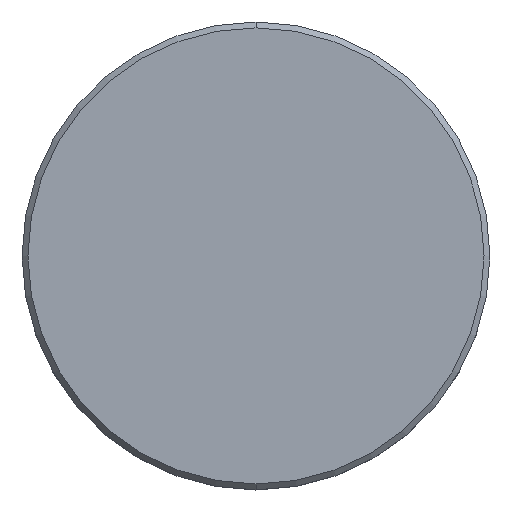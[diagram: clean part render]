
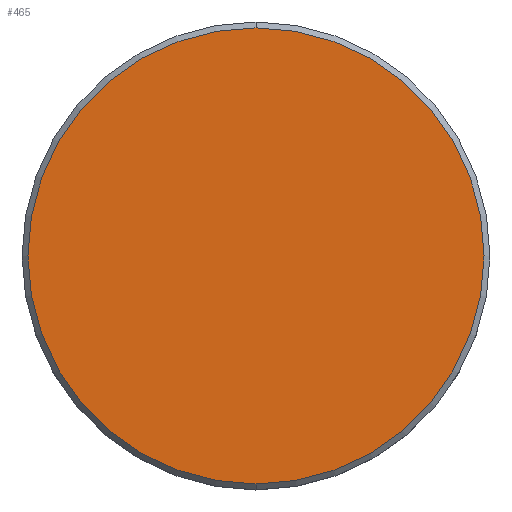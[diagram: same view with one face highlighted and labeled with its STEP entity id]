
A CAD part, top view. The second image highlights one B-rep face of the part: STEP entity #465.
In plain terms, the highlighted planar face has unit normal (0, 0, 1).
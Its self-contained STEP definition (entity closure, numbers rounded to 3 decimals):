
#6 = CARTESIAN_POINT ( 'NONE',  ( 0., 0., 0. ) ) ;
#49 = FACE_OUTER_BOUND ( 'NONE', #140, .T. ) ;
#138 = EDGE_CURVE ( 'NONE', #468, #521, #160, .T. ) ;
#140 = EDGE_LOOP ( 'NONE', ( #425, #530 ) ) ;
#144 = CIRCLE ( 'NONE', #396, 1.945 ) ;
#160 = CIRCLE ( 'NONE', #230, 1.945 ) ;
#209 = CARTESIAN_POINT ( 'NONE',  ( 0., -1.945, 0. ) ) ;
#211 = CARTESIAN_POINT ( 'NONE',  ( 0., 0., 0. ) ) ;
#230 = AXIS2_PLACEMENT_3D ( 'NONE', #211, #365, #429 ) ;
#278 = EDGE_CURVE ( 'NONE', #521, #468, #144, .T. ) ;
#291 = DIRECTION ( 'NONE',  ( 0., 0., 1. ) ) ;
#319 = PLANE ( 'NONE',  #563 ) ;
#365 = DIRECTION ( 'NONE',  ( 0., 0., 1. ) ) ;
#396 = AXIS2_PLACEMENT_3D ( 'NONE', #497, #291, #443 ) ;
#425 = ORIENTED_EDGE ( 'NONE', *, *, #278, .T. ) ;
#429 = DIRECTION ( 'NONE',  ( 0., 1., 0. ) ) ;
#430 = DIRECTION ( 'NONE',  ( 1., 0., 0. ) ) ;
#443 = DIRECTION ( 'NONE',  ( 0., 1., 0. ) ) ;
#465 = ADVANCED_FACE ( 'NONE', ( #49 ), #319, .T. ) ;
#468 = VERTEX_POINT ( 'NONE', #209 ) ;
#497 = CARTESIAN_POINT ( 'NONE',  ( 0., 0., 0. ) ) ;
#521 = VERTEX_POINT ( 'NONE', #525 ) ;
#525 = CARTESIAN_POINT ( 'NONE',  ( 0., 1.945, 0. ) ) ;
#530 = ORIENTED_EDGE ( 'NONE', *, *, #138, .T. ) ;
#532 = DIRECTION ( 'NONE',  ( 0., 0., 1. ) ) ;
#563 = AXIS2_PLACEMENT_3D ( 'NONE', #6, #532, #430 ) ;
